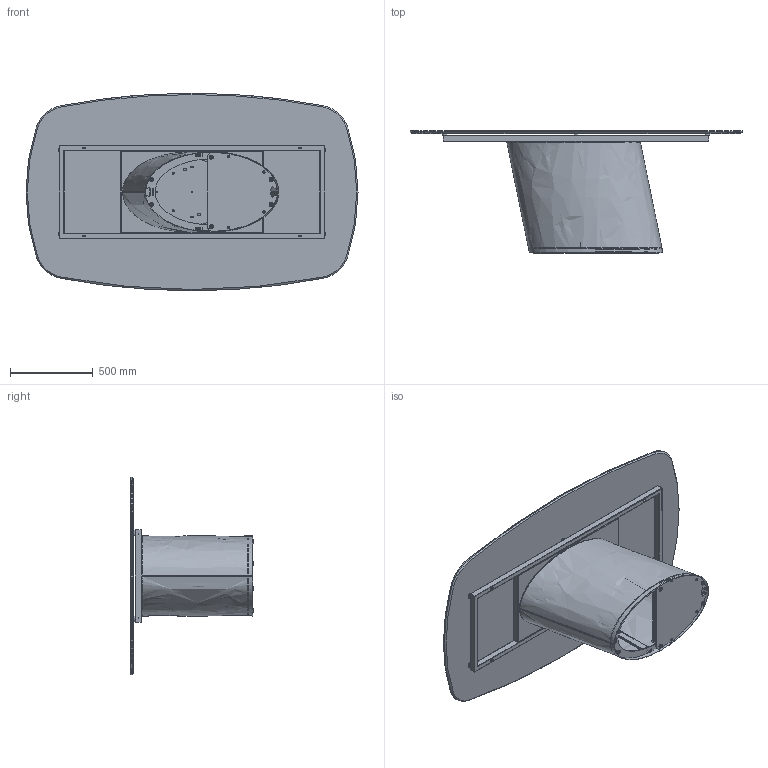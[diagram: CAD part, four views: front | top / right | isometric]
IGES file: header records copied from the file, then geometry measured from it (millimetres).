
Start section: SolidWorks IGES file using analytic representation for surfaces
Global section: file name: Y:\eforma\TECNICO\SOLIDWORKS\E-FORMA\1-TAVOLI\DORADO\02 parts\DO40C.IGS; native system: SolidWorks 2022; preprocessor: SolidWorks 2022; author: eforma.tech; date: 240806.151316; units: millimetre
Bounding box: 2000 x 738 x 1190 mm (x, y, z)
Volume: 46376457.1 mm3; surface area: 15918407.3 mm2
Topology: 50 solids, 50 shells, 1125 faces, 2725 edges, 1714 vertices
Faces by surface type: revolution 693, plane 406, bspline 26
